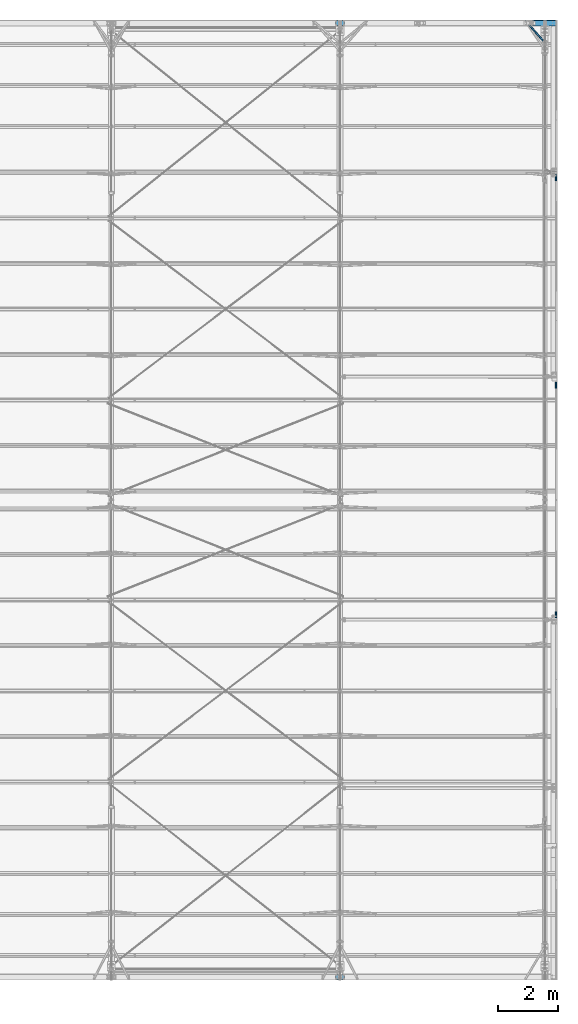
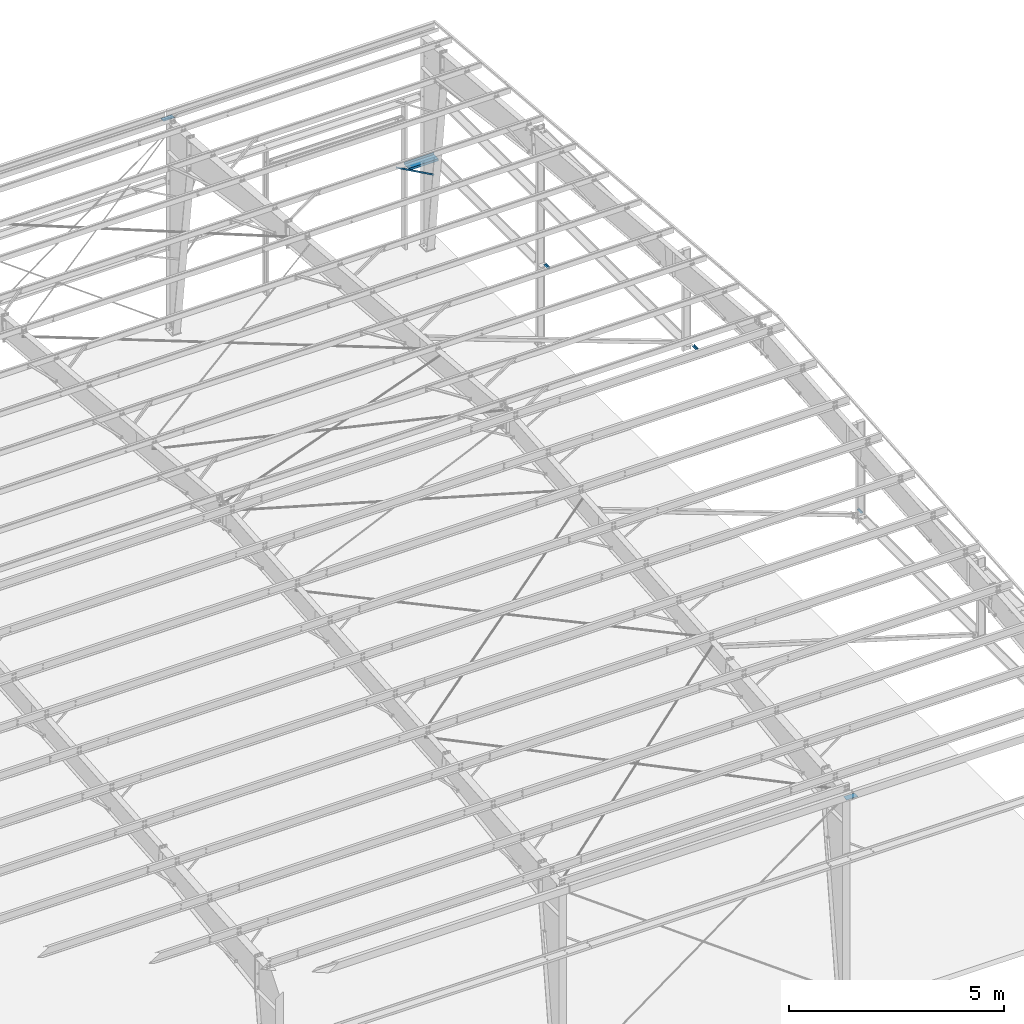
# One storey, part 24 of 185: 7 beams, 7 elements without a shape of their own.
"""IFC2X3 building model written with IfcOpenShell, lengths in millimetres."""

from ifc_helpers import new_model, si_unit, frame, origin_with_axes, origin_2d_with_axis, place, context, subcontext, project, spatial, polyline, rectangle, outline, extrude, clip, halfspace, material, type_object, element, aggregate, save


model = new_model("IFC2X3")

# Units and contexts
model_context = context("Model", 3, precision=1e-05, world=origin_with_axes())
body_context = subcontext(model_context, "Body", "Model", "MODEL_VIEW")
ifc_project = project(units=[si_unit("LENGTHUNIT", "METRE", prefix="MILLI"), si_unit("AREAUNIT", "SQUARE_METRE"), si_unit("VOLUMEUNIT", "CUBIC_METRE"), si_unit("MASSUNIT", "GRAM", prefix="KILO"), si_unit("TIMEUNIT", "SECOND"), si_unit("PLANEANGLEUNIT", "RADIAN"), si_unit("SOLIDANGLEUNIT", "STERADIAN"), si_unit("THERMODYNAMICTEMPERATUREUNIT", "DEGREE_CELSIUS"), si_unit("LUMINOUSINTENSITYUNIT", "LUMEN")], contexts=[model_context])

# Site, building, storey
site_placement = place(None, origin_with_axes())
site = spatial("IfcSite", under=ifc_project, at=site_placement, Name="Undefined", CompositionType="ELEMENT")
building_placement = place(site_placement, origin_with_axes())
building = spatial("IfcBuilding", under=site, at=building_placement, Name="Undefined", CompositionType="ELEMENT")
storey_placement = place(building_placement, origin_with_axes())
storey = spatial("IfcBuildingStorey", under=building, at=storey_placement, Name="Undefined", CompositionType="ELEMENT", Elevation=0.0)

# Assembly, beam
assembly_1_placement = place(storey_placement, origin_with_axes())
assembly_1 = element("IfcElementAssembly", 1, at=assembly_1_placement, inside=storey, Name="Steel Assembly", AssemblyPlace="NOTDEFINED", PredefinedType="RIGID_FRAME")
ifc_material = material(Name="STEEL/55")
beam_type_1 = type_object("IfcBeamType", Name="FLDPL2\"X2\"X1/16\"X90\"", PredefinedType="NOTDEFINED")
beam_1_placement = place(assembly_1_placement, frame((44952.047125, 26643.090288, 2316.16250000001), z_axis=(0.0, 0.0, -1.0), x_axis=(0.0, 1.0, 0.0)))
beam_1 = element("IfcBeam", 2, at=beam_1_placement, type_object=beam_type_1, material=ifc_material, Name="WINDOW FRAME ANGLE", ObjectType="FLDPL2\"X2\"X1/16\"X90\"", context=body_context, shape_type="SweptSolid", body=[
    extrude(outline(polyline([(0.793499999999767, 23.8130000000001), (0.793499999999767, -25.4000000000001), (-0.793499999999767, -25.4000000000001), (-0.793499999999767, 25.4000000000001), (50.0065000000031, 25.4000000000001), (50.0065000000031, 23.8130000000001), (0.793499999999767, 23.8130000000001)])), frame((203.200000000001, 0.0, 0.0), z_axis=(-1.0, 0.0, 0.0), x_axis=(0.0, -1.0, 0.0)), (0.0, 0.0, 1.0), 203.2),
])
aggregate(assembly_1, [beam_1])

assembly_2_placement = place(storey_placement, origin_with_axes())
assembly_2 = element("IfcElementAssembly", 3, at=assembly_2_placement, inside=storey, Name="Steel Assembly", AssemblyPlace="NOTDEFINED", PredefinedType="RIGID_FRAME")
beam_2_placement = place(assembly_2_placement, frame((44952.047125, 19730.4213492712, 4195.76250000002), z_axis=(0.0, 0.0, -1.0), x_axis=(0.0, 1.0, 0.0)))
beam_2 = element("IfcBeam", 4, at=beam_2_placement, type_object=beam_type_1, material=ifc_material, Name="WINDOW FRAME ANGLE", ObjectType="FLDPL2\"X2\"X1/16\"X90\"", context=body_context, shape_type="SweptSolid", body=[
    extrude(outline(polyline([(0.793499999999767, 23.8130000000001), (0.793499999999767, -25.4000000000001), (-0.793499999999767, -25.4000000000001), (-0.793499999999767, 25.4000000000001), (50.0065000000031, 25.4000000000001), (50.0065000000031, 23.8130000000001), (0.793499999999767, 23.8130000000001)])), frame((203.200000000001, 0.0, 0.0), z_axis=(-1.0, 0.0, 0.0), x_axis=(0.0, -1.0, 0.0)), (0.0, 0.0, 1.0), 203.2),
])
aggregate(assembly_2, [beam_2])

assembly_3_placement = place(storey_placement, origin_with_axes())
assembly_3 = element("IfcElementAssembly", 5, at=assembly_3_placement, inside=storey, Name="Steel Assembly", AssemblyPlace="NOTDEFINED", PredefinedType="RIGID_FRAME")
beam_3_placement = place(assembly_3_placement, frame((44952.047125, 12070.3786507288, 4195.76250000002), z_axis=(0.0, 0.0, -1.0), x_axis=(0.0, 1.0, 0.0)))
beam_3 = element("IfcBeam", 6, at=beam_3_placement, type_object=beam_type_1, material=ifc_material, Name="WINDOW FRAME ANGLE", ObjectType="FLDPL2\"X2\"X1/16\"X90\"", context=body_context, shape_type="SweptSolid", body=[
    extrude(outline(polyline([(0.793499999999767, 23.8130000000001), (0.793499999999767, -25.4000000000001), (-0.793499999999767, -25.4000000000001), (-0.793499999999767, 25.4000000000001), (50.0065000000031, 25.4000000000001), (50.0065000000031, 23.8130000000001), (0.793499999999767, 23.8130000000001)])), frame((203.200000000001, 0.0, 0.0), z_axis=(-1.0, 0.0, 0.0), x_axis=(0.0, -1.0, 0.0)), (0.0, 0.0, 1.0), 203.2),
])
aggregate(assembly_3, [beam_3])

assembly_4_placement = place(storey_placement, origin_with_axes())
assembly_4 = element("IfcElementAssembly", 7, at=assembly_4_placement, inside=storey, Name="Steel Assembly", AssemblyPlace="NOTDEFINED", PredefinedType="RIGID_FRAME")
beam_type_2 = type_object("IfcBeamType", Name="FB-", PredefinedType="NOTDEFINED")
beam_4_placement = place(assembly_4_placement, frame((44502.7145875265, 31257.6953137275, 2287.58749999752), z_axis=(0.0, 0.0, 1.0), x_axis=(-0.665513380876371, 0.74638591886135, 0.0)))
beam_4 = element("IfcBeam", 8, at=beam_4_placement, type_object=beam_type_2, material=ifc_material, Name="2X2 FLANGE BRACE X 36", ObjectType="FB-", context=body_context, shape_type="SweptSolid", body=[
    extrude(outline(polyline([(1.5900000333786, 1.59000003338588), (50.7999992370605, 1.59000003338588), (50.7999992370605, 7.27595761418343e-12), (0.0, 0.0), (0.0, 50.7999992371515), (1.5900000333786, 50.7999992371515), (1.5900000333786, 1.59000003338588)])), frame((934.582005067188, 1.03759446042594e-13, 0.0), z_axis=(-1.0, 0.0, 0.0), x_axis=(0.0, -1.0, 0.0)), (0.0, 0.0, 1.0), 934.6),
])
aggregate(assembly_4, [beam_4])

assembly_5_placement = place(storey_placement, origin_with_axes())
assembly_5 = element("IfcElementAssembly", 9, at=assembly_5_placement, inside=storey, Name="Steel Assembly", AssemblyPlace="NOTDEFINED", PredefinedType="RIGID_FRAME")
beam_type_3 = type_object("IfcBeamType", Name="8Z16", PredefinedType="NOTDEFINED")
beam_5_placement = place(assembly_5_placement, frame((44958.0, 31902.4, 2286.0), z_axis=(0.0, -1.0, 0.0), x_axis=(-1.0, 0.0, 0.0)))
beam_5 = element("IfcBeam", 10, at=beam_5_placement, type_object=beam_type_3, material=ifc_material, Name="Girt", ObjectType="8Z16", context=body_context, shape_type="Clipping", body=[
    clip(clip(extrude(outline(polyline([(73.3099975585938, -84.9700012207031), (75.7399978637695, -87.0100021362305), (63.5, -101.599998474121), (-1.5900000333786, -101.599998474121), (-1.5900000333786, 98.4199981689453), (-62.0200004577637, 98.4199981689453), (-73.3099975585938, 84.9700012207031), (-75.75, 87.0100021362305), (-63.5, 101.599998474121), (1.5900000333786, 101.599998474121), (1.5900000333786, -98.4199981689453), (62.0200004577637, -98.4199981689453), (73.3099975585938, -84.9700012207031)])), frame((825.499999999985, 0.0, 0.0), z_axis=(-1.0, 0.0, 0.0), x_axis=(0.0, -1.0, 0.0)), (0.0, 0.0, 1.0), 800.1), halfspace(frame((825.499999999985, -1.59000003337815, 0.0), z_axis=(-1.0, 0.0, 0.0), x_axis=(0.0, -1.0, 0.0)), True)), halfspace(frame((25.4000000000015, 0.0, -101.6), z_axis=(-1.0, 0.0, 0.0), x_axis=(0.0, 0.0, 1.0)), False)),
])
aggregate(assembly_5, [beam_5])

assembly_6_placement = place(storey_placement, origin_with_axes())
assembly_6 = element("IfcElementAssembly", 11, at=assembly_6_placement, inside=storey, Name="Steel Assembly", AssemblyPlace="NOTDEFINED", PredefinedType="RIGID_FRAME")
beam_type_4 = type_object("IfcBeamType", Name="PL1/4\"X6\"", PredefinedType="NOTDEFINED")
beam_6_placement = place(assembly_6_placement, frame((37719.0, 31978.863669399, 5898.96936720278), z_axis=(1.0, 0.0, 0.0), x_axis=(0.0, -0.996545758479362, 0.0830454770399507)))
beam_6 = element("IfcBeam", 12, at=beam_6_placement, type_object=beam_type_4, material=ifc_material, Name="4 BOLT EAVE STRUT PL", ObjectType="PL1/4\"X6\"", context=body_context, shape_type="SweptSolid", body=[
    extrude(rectangle(XDim=6.35, YDim=304.8, at=origin_2d_with_axis()), frame((152.928251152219, -2.12230581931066e-15, 0.0), z_axis=(-1.0, 0.0, 0.0), x_axis=(0.0, -1.0, 0.0)), (0.0, 0.0, 1.0), 152.9),
])
aggregate(assembly_6, [beam_6])

assembly_7_placement = place(storey_placement, origin_with_axes())
assembly_7 = element("IfcElementAssembly", 13, at=assembly_7_placement, inside=storey, Name="Steel Assembly", AssemblyPlace="NOTDEFINED", PredefinedType="RIGID_FRAME")
beam_7_placement = place(assembly_7_placement, frame((37719.0, 25.1363306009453, 5898.96936720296), z_axis=(-1.0, 0.0, 0.0), x_axis=(0.0, 0.996545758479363, 0.0830454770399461)))
beam_7 = element("IfcBeam", 14, at=beam_7_placement, type_object=beam_type_4, material=ifc_material, Name="4 BOLT EAVE STRUT PL", ObjectType="PL1/4\"X6\"", context=body_context, shape_type="SweptSolid", body=[
    extrude(rectangle(XDim=6.35, YDim=304.8, at=origin_2d_with_axis()), frame((152.928251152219, -2.12230581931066e-15, 0.0), z_axis=(-1.0, 0.0, 0.0), x_axis=(0.0, -1.0, 0.0)), (0.0, 0.0, 1.0), 152.9),
])
aggregate(assembly_7, [beam_7])

save(model, "model.ifc")
